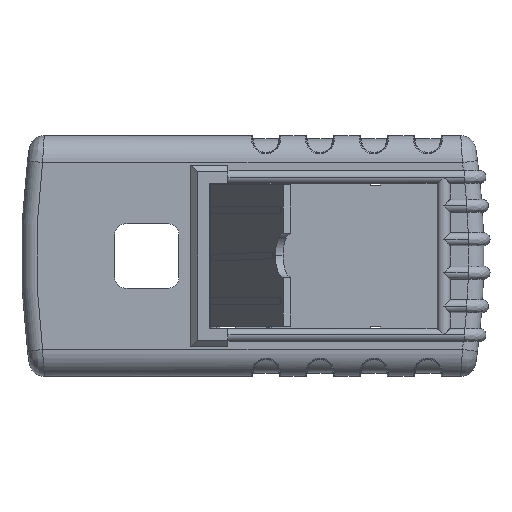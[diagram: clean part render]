
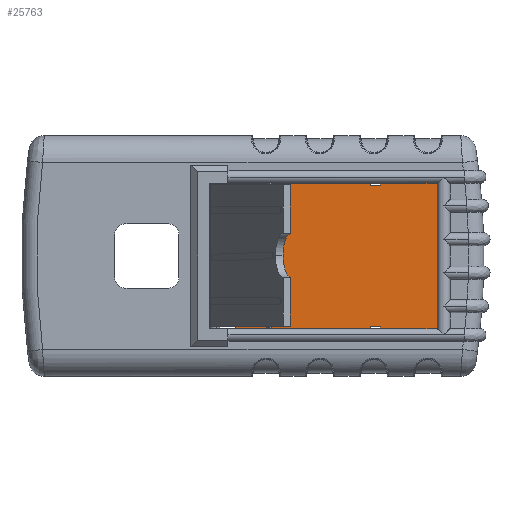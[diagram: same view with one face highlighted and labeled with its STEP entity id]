
A CAD part, front view. The second image highlights one B-rep face of the part: STEP entity #25763.
In plain terms, the highlighted planar face has unit normal (0, -1, 0).
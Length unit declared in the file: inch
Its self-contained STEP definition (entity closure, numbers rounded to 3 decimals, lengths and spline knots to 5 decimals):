
#650 = ORIENTED_EDGE ( 'NONE', *, *, #19146, .F. ) ;
#830 = CARTESIAN_POINT ( 'NONE',  ( 2.17882, 0.035, 1.3435 ) ) ;
#986 = VECTOR ( 'NONE', #14340, 39.37008 ) ;
#1036 = CARTESIAN_POINT ( 'NONE',  ( 0., 0.035, 0. ) ) ;
#1090 = VERTEX_POINT ( 'NONE', #830 ) ;
#1762 = CARTESIAN_POINT ( 'NONE',  ( 2.17882, 0.035, 1.31086 ) ) ;
#1956 = EDGE_CURVE ( 'NONE', #4026, #3197, #17253, .T. ) ;
#2471 = AXIS2_PLACEMENT_3D ( 'NONE', #1036, #26640, #13960 ) ;
#2792 = CARTESIAN_POINT ( 'NONE',  ( 2.36682, 0.035, -1.3435 ) ) ;
#3197 = VERTEX_POINT ( 'NONE', #10835 ) ;
#3287 = PLANE ( 'NONE',  #2471 ) ;
#3554 = CARTESIAN_POINT ( 'NONE',  ( 2.17882, 0.035, -1.3435 ) ) ;
#4026 = VERTEX_POINT ( 'NONE', #4299 ) ;
#4035 = VECTOR ( 'NONE', #23693, 39.37008 ) ;
#4122 = EDGE_CURVE ( 'NONE', #12804, #15991, #14220, .T. ) ;
#4245 = LINE ( 'NONE', #24638, #26168 ) ;
#4299 = CARTESIAN_POINT ( 'NONE',  ( 3.42182, 0.035, -1.3435 ) ) ;
#4594 = CARTESIAN_POINT ( 'NONE',  ( 0., 0.035, -1.31086 ) ) ;
#4703 = LINE ( 'NONE', #4594, #4035 ) ;
#4943 = VECTOR ( 'NONE', #9798, 39.37008 ) ;
#5306 = CARTESIAN_POINT ( 'NONE',  ( 2.36682, 0.035, -1.31086 ) ) ;
#5692 = DIRECTION ( 'NONE',  ( -1., 0., 0. ) ) ;
#5964 = LINE ( 'NONE', #24280, #22259 ) ;
#6148 = ORIENTED_EDGE ( 'NONE', *, *, #19279, .T. ) ;
#6393 = VECTOR ( 'NONE', #6417, 39.37008 ) ;
#6417 = DIRECTION ( 'NONE',  ( 0., 0., -1. ) ) ;
#6816 = VECTOR ( 'NONE', #27107, 39.37008 ) ;
#7710 = ORIENTED_EDGE ( 'NONE', *, *, #10191, .F. ) ;
#7905 = VECTOR ( 'NONE', #9509, 39.37008 ) ;
#8037 = EDGE_CURVE ( 'NONE', #21739, #23528, #12452, .T. ) ;
#8060 = CARTESIAN_POINT ( 'NONE',  ( -0.32118, 0.035, 1.3435 ) ) ;
#8695 = EDGE_CURVE ( 'NONE', #16777, #21739, #8788, .T. ) ;
#8788 = LINE ( 'NONE', #16522, #25705 ) ;
#9030 = ORIENTED_EDGE ( 'NONE', *, *, #20633, .T. ) ;
#9509 = DIRECTION ( 'NONE',  ( 0., 0., -1. ) ) ;
#9738 = ORIENTED_EDGE ( 'NONE', *, *, #12335, .F. ) ;
#9798 = DIRECTION ( 'NONE',  ( -1., 0., 0. ) ) ;
#10191 = EDGE_CURVE ( 'NONE', #26216, #23528, #12057, .T. ) ;
#10299 = CARTESIAN_POINT ( 'NONE',  ( 2.36682, 0.035, 1.3435 ) ) ;
#10327 = EDGE_LOOP ( 'NONE', ( #6148, #10532, #9030, #23966, #17081, #7710, #9738, #650, #17433, #25775, #23672, #17347 ) ) ;
#10532 = ORIENTED_EDGE ( 'NONE', *, *, #17138, .T. ) ;
#10780 = VERTEX_POINT ( 'NONE', #2792 ) ;
#10835 = CARTESIAN_POINT ( 'NONE',  ( 3.42182, 0.035, 1.3435 ) ) ;
#11938 = DIRECTION ( 'NONE',  ( 0., 0., 1. ) ) ;
#12057 = LINE ( 'NONE', #12739, #6393 ) ;
#12335 = EDGE_CURVE ( 'NONE', #25728, #26216, #4703, .T. ) ;
#12452 = LINE ( 'NONE', #20737, #6816 ) ;
#12739 = CARTESIAN_POINT ( 'NONE',  ( 2.17882, 0.035, 0. ) ) ;
#12804 = VERTEX_POINT ( 'NONE', #10299 ) ;
#12876 = DIRECTION ( 'NONE',  ( 0., 0., 1. ) ) ;
#13960 = DIRECTION ( 'NONE',  ( 0., 0., -1. ) ) ;
#14220 = LINE ( 'NONE', #17767, #7905 ) ;
#14340 = DIRECTION ( 'NONE',  ( 0., 0., 1. ) ) ;
#14887 = LINE ( 'NONE', #18430, #26844 ) ;
#14896 = CARTESIAN_POINT ( 'NONE',  ( 2.36682, 0.035, 0. ) ) ;
#15856 = CARTESIAN_POINT ( 'NONE',  ( 2.17882, 0.035, -1.31086 ) ) ;
#15991 = VERTEX_POINT ( 'NONE', #23305 ) ;
#16522 = CARTESIAN_POINT ( 'NONE',  ( -0.32118, 0.035, 1.3435 ) ) ;
#16777 = VERTEX_POINT ( 'NONE', #8060 ) ;
#17081 = ORIENTED_EDGE ( 'NONE', *, *, #8037, .T. ) ;
#17138 = EDGE_CURVE ( 'NONE', #19403, #1090, #4245, .T. ) ;
#17253 = LINE ( 'NONE', #27018, #986 ) ;
#17347 = ORIENTED_EDGE ( 'NONE', *, *, #4122, .T. ) ;
#17433 = ORIENTED_EDGE ( 'NONE', *, *, #19902, .T. ) ;
#17767 = CARTESIAN_POINT ( 'NONE',  ( 2.36682, 0.035, 0. ) ) ;
#18430 = CARTESIAN_POINT ( 'NONE',  ( 3.42182, 0.035, 1.3435 ) ) ;
#19146 = EDGE_CURVE ( 'NONE', #10780, #25728, #19978, .T. ) ;
#19279 = EDGE_CURVE ( 'NONE', #15991, #19403, #5964, .T. ) ;
#19403 = VERTEX_POINT ( 'NONE', #1762 ) ;
#19902 = EDGE_CURVE ( 'NONE', #10780, #4026, #20596, .T. ) ;
#19943 = VECTOR ( 'NONE', #27333, 39.37008 ) ;
#19978 = LINE ( 'NONE', #14896, #24260 ) ;
#20175 = CARTESIAN_POINT ( 'NONE',  ( -0.32118, 0.035, -1.3435 ) ) ;
#20596 = LINE ( 'NONE', #25223, #19943 ) ;
#20633 = EDGE_CURVE ( 'NONE', #1090, #16777, #21215, .T. ) ;
#20667 = EDGE_CURVE ( 'NONE', #3197, #12804, #14887, .T. ) ;
#20737 = CARTESIAN_POINT ( 'NONE',  ( -0.32118, 0.035, -1.3435 ) ) ;
#21215 = LINE ( 'NONE', #22504, #4943 ) ;
#21739 = VERTEX_POINT ( 'NONE', #20175 ) ;
#22141 = DIRECTION ( 'NONE',  ( -1., 0., 0. ) ) ;
#22259 = VECTOR ( 'NONE', #22141, 39.37008 ) ;
#22504 = CARTESIAN_POINT ( 'NONE',  ( 3.42182, 0.035, 1.3435 ) ) ;
#23305 = CARTESIAN_POINT ( 'NONE',  ( 2.36682, 0.035, 1.31086 ) ) ;
#23528 = VERTEX_POINT ( 'NONE', #3554 ) ;
#23672 = ORIENTED_EDGE ( 'NONE', *, *, #20667, .T. ) ;
#23693 = DIRECTION ( 'NONE',  ( -1., 0., 0. ) ) ;
#23966 = ORIENTED_EDGE ( 'NONE', *, *, #8695, .T. ) ;
#24260 = VECTOR ( 'NONE', #12876, 39.37008 ) ;
#24280 = CARTESIAN_POINT ( 'NONE',  ( 0., 0.035, 1.31086 ) ) ;
#24638 = CARTESIAN_POINT ( 'NONE',  ( 2.17882, 0.035, 0. ) ) ;
#25117 = FACE_OUTER_BOUND ( 'NONE', #10327, .T. ) ;
#25223 = CARTESIAN_POINT ( 'NONE',  ( -0.32118, 0.035, -1.3435 ) ) ;
#25705 = VECTOR ( 'NONE', #27341, 39.37008 ) ;
#25728 = VERTEX_POINT ( 'NONE', #5306 ) ;
#25763 = ADVANCED_FACE ( 'NONE', ( #25117 ), #3287, .T. ) ;
#25775 = ORIENTED_EDGE ( 'NONE', *, *, #1956, .T. ) ;
#26168 = VECTOR ( 'NONE', #11938, 39.37008 ) ;
#26216 = VERTEX_POINT ( 'NONE', #15856 ) ;
#26640 = DIRECTION ( 'NONE',  ( 0., -1., 0. ) ) ;
#26844 = VECTOR ( 'NONE', #5692, 39.37008 ) ;
#27018 = CARTESIAN_POINT ( 'NONE',  ( 3.42182, 0.035, -1.3435 ) ) ;
#27107 = DIRECTION ( 'NONE',  ( 1., 0., 0. ) ) ;
#27333 = DIRECTION ( 'NONE',  ( 1., 0., 0. ) ) ;
#27341 = DIRECTION ( 'NONE',  ( 0., 0., -1. ) ) ;
